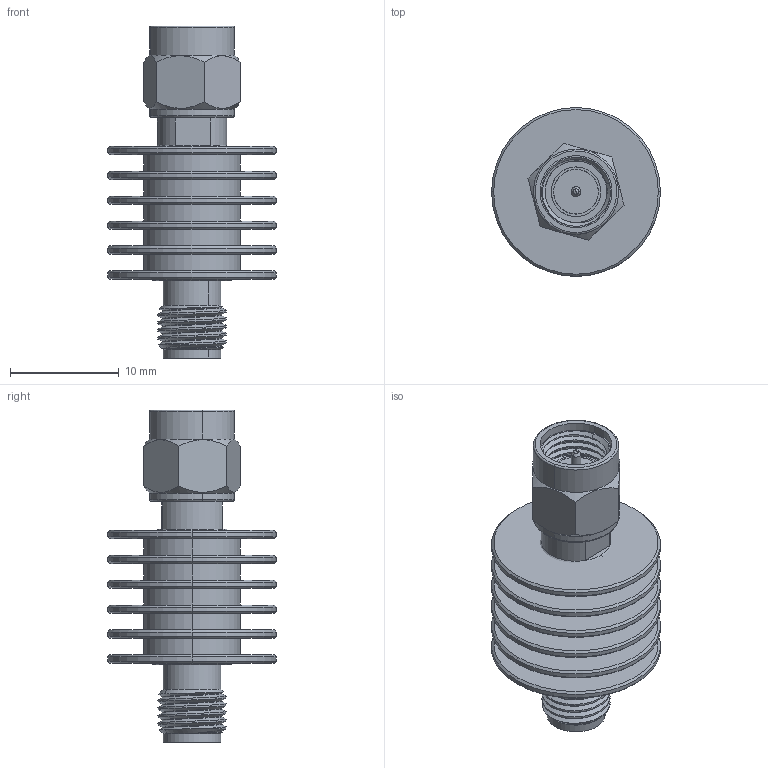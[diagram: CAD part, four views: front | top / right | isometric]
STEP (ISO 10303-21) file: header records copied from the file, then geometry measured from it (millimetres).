
FILE_DESCRIPTION (( 'STEP AP203' ), '1' );
FILE_NAME ('DC737.STEP', '2016-12-21T20:02:45', ( '' ), ( '' ), 'SwSTEP 2.0', 'SolidWorks 2013', '' );
FILE_SCHEMA (( 'CONFIG_CONTROL_DESIGN' ));
Length unit declared in the file: inch
Products named in the file (12): DC737; 298-0048-STP_298-0005-00; 299-0054-STP
Assembly tree (11 placements, depth 3):
  DC737
    DC737
    299-0054-STP
      DC737
      DC737
      DC737
    DC737
    DC737
    298-0048-STP_298-0005-00
      DC737
      DC737
      DC737
Bounding box: 15.49 x 15.49 x 30.48 mm (x, y, z)
Volume: 2129.3 mm3; surface area: 3283.7 mm2
Topology: 9 solids, 9 shells, 239 faces, 540 edges, 337 vertices
Faces by surface type: cylinder 110, plane 55, cone 54, torus 14, bspline 4, sphere 2
Entity records: 9267 total; most frequent: CARTESIAN_POINT 2740, DIRECTION 1151, ORIENTED_EDGE 1076, EDGE_CURVE 538, AXIS2_PLACEMENT_3D 482, VERTEX_POINT 337, EDGE_LOOP 265, ADVANCED_FACE 239
